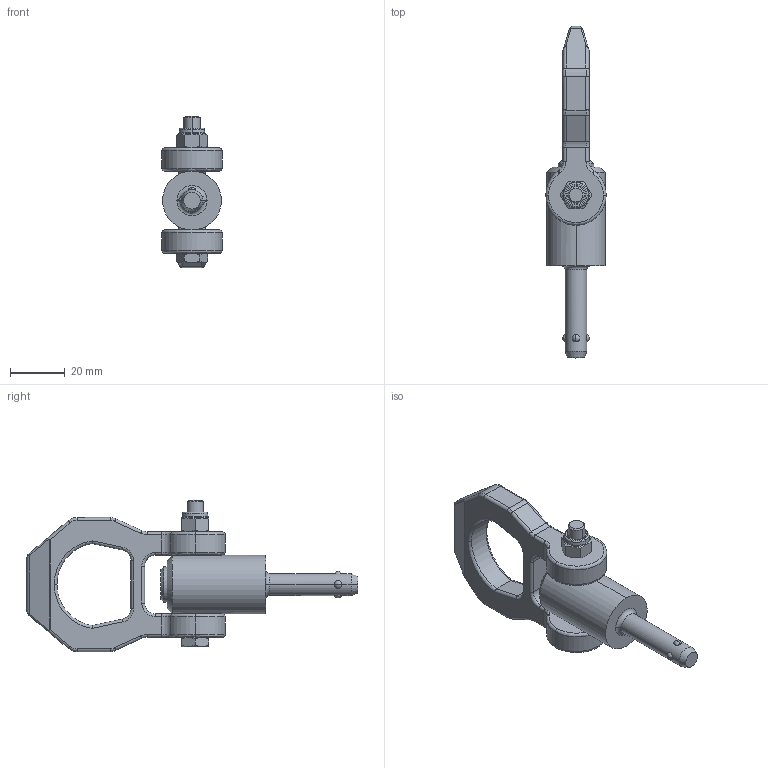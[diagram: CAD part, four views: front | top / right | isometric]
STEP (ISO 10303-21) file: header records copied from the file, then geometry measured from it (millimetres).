
FILE_DESCRIPTION (( 'STEP AP214' ), '1' );
FILE_NAME ('1130-8-25-NI.step', '2023-05-11T09:32:13', ( '' ), ( '' ), 'SwSTEP 2.0', 'SolidWorks 2022', '' );
FILE_SCHEMA (( 'AUTOMOTIVE_DESIGN' ));
Length unit declared in the file: millimetre
Products named in the file (3): Kopie von ring2^WB1130_NI; 1130-8-25-NI; Kopie von bolzen1^WB1130_NI_8-25-NI
Assembly tree (2 placements, depth 2):
  1130-8-25-NI
    Kopie von bolzen1^WB1130_NI_8-25-NI
    Kopie von ring2^WB1130_NI
Bounding box: 22 x 121.25 x 55.25 mm (x, y, z)
Volume: 33792.2 mm3; surface area: 12266.6 mm2
Topology: 2 solids, 2 shells, 248 faces, 611 edges, 375 vertices
Faces by surface type: plane 83, cylinder 77, bspline 48, cone 26, sphere 8, torus 6
Entity records: 9676 total; most frequent: CARTESIAN_POINT 4288, ORIENTED_EDGE 1222, DIRECTION 919, EDGE_CURVE 611, VERTEX_POINT 375, AXIS2_PLACEMENT_3D 345, EDGE_LOOP 262, ADVANCED_FACE 248
